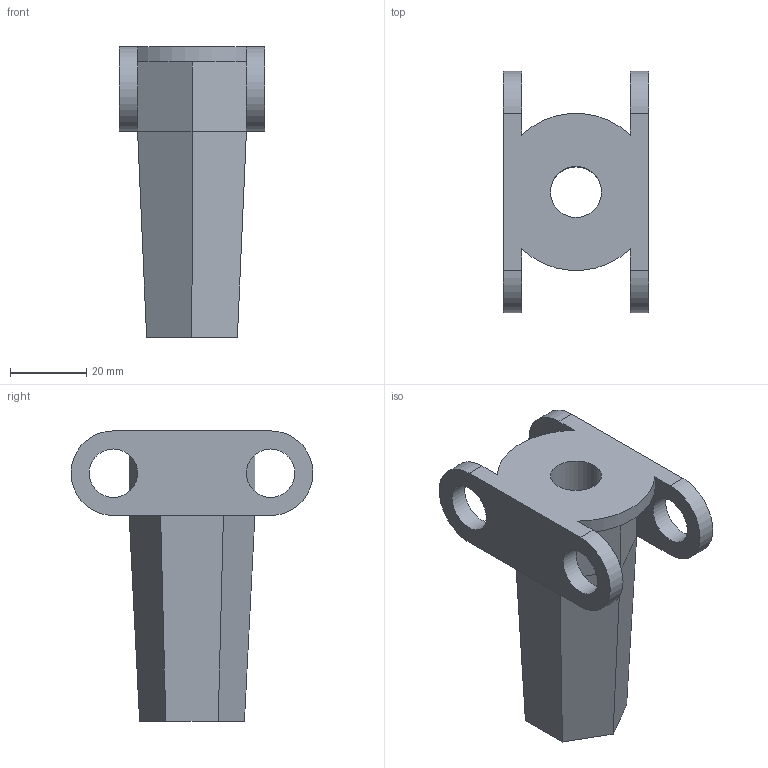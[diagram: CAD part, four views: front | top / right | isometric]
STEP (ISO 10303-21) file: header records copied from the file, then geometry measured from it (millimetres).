
FILE_DESCRIPTION(/* description */ (''),/* implementation_level */ '2;1');
FILE_NAME(/* name */ 'C:\001_Work\Designs\HPA\HPA-0625.stp',/* time_stamp */ '2015-10-20T08:58:17-04:00',/* author */ ('rramoutar'),/* organization */ (''),/* preprocessor_version */ 'ST-DEVELOPER v15.6',/* originating_system */ 'Autodesk Inventor 2015',/* authorisation */ '');
FILE_SCHEMA (('AUTOMOTIVE_DESIGN { 1 0 10303 214 3 1 1 }'));
Length unit declared in the file: inch
Products named in the file (1): A-24733-2 HPA-0625
Bounding box: 38.1 x 63.5 x 76.2 mm (x, y, z)
Volume: 48639.7 mm3; surface area: 16798.7 mm2
Topology: 1 solids, 1 shells, 33 faces, 84 edges, 53 vertices
Faces by surface type: plane 22, cylinder 11
Full cylindrical faces by diameter (mm): 12.7 x4, 13.386 x1
Entity records: 1000 total; most frequent: DIRECTION 168, CARTESIAN_POINT 164, ORIENTED_EDGE 156, EDGE_CURVE 78, LINE 56, VECTOR 56, AXIS2_PLACEMENT_3D 56, VERTEX_POINT 52
